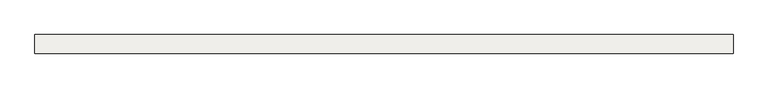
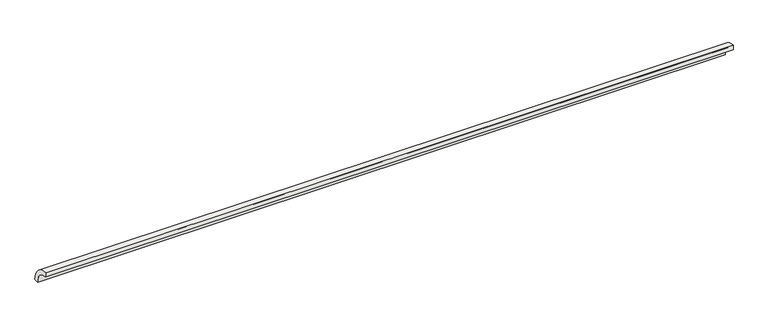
"""IFC4 building model written with IfcOpenShell, lengths in millimetres: slab geometry, ROSA GRES_138 : Pieza 138_Aqua_Plomo_Anti-Slip."""

from ifc_helpers import new_model, si_unit, point, frame, frame_2d, origin, origin_2d, place, context, project, spatial, polyline, circle_curve, trimmed, segment, composite_curve, outline, extrude, source, transform, mapped, element, save


def slab_8877062a(model_context):
    return source(origin(), model_context, "Body", "SweptSolid", [
        extrude(outline(composite_curve([segment(trimmed(circle_curve(origin_2d(), 40.0), [point((0.0, 40.0))], [point((40.0, 0.0))], False, "CARTESIAN"), True, "CONTINUOUS"), segment(polyline([(40.0, 0.0), (30.0265886, 0.0)]), True, "CONTINUOUS"), segment(trimmed(circle_curve(frame_2d((0.0044453, 0.0044453)), 30.0221435), [point((30.0265886, 0.0))], [point((0.0, 30.0265886))], True, "CARTESIAN"), True, "CONTINUOUS"), segment(polyline([(0.0, 30.0265886), (0.0, 40.0)]), True, "CONTINUOUS")], self_intersect=False)), frame((0.0, 0.0, 0.0), z_axis=(1.0, 0.0, 0.0), x_axis=(0.0, 1.0, 0.0)), (0.0, 0.0, 1.0), 1498.8667893),
    ])


if __name__ == "__main__":
    model = new_model("IFC4")
    model_context = context("Model", 3, world=origin())
    ifc_project = project(units=[si_unit("LENGTHUNIT", "METRE", prefix="MILLI")], contexts=[model_context])
    site = spatial("IfcSite", under=ifc_project)
    building = spatial("IfcBuilding", under=site)
    placement = place(None, origin())
    slab_shape = slab_8877062a(model_context)
    element("IfcSlab", 1, ObjectType="ROSA GRES_138 : Pieza 138_Aqua_Plomo_Anti-Slip", at=placement, inside=building, context=model_context, shape_type="MappedRepresentation", body=[
        mapped(slab_shape, transform((0.0, 0.0, 0.0), x_axis=(1.0, 0.0, 0.0), y_axis=(0.0, 1.0, 0.0), z_axis=(0.0, 0.0, 1.0))),
    ])
    save(model, "model.ifc")
